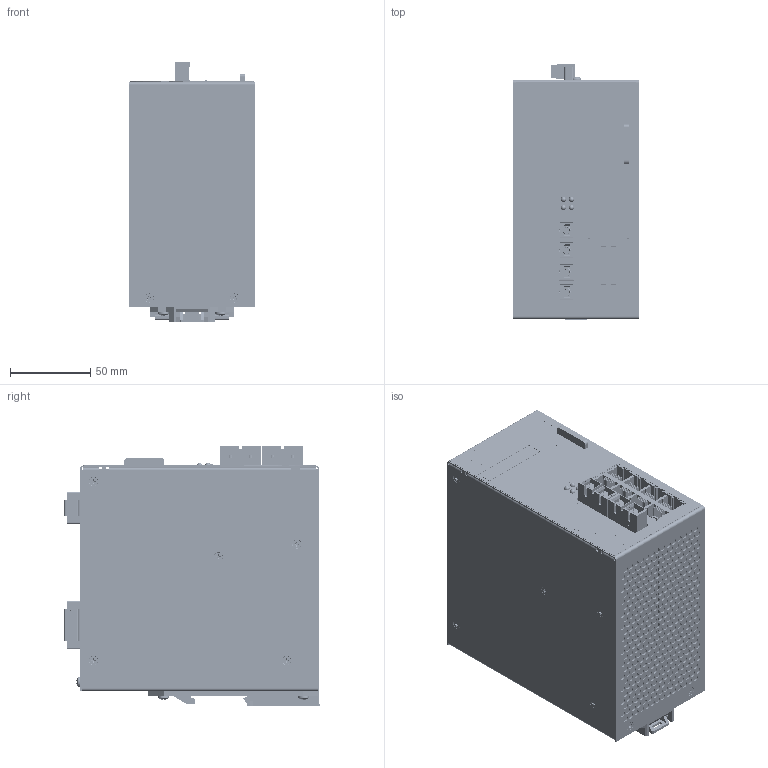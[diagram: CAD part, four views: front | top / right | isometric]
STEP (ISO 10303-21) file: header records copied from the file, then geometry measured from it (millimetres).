
FILE_DESCRIPTION (( 'STEP AP214' ), '1' );
FILE_NAME ('NT24K-10 GX-FX 2.STEP', '2023-03-01T15:05:07', ( '' ), ( '' ), 'SwSTEP 2.0', 'SolidWorks 2022', '' );
FILE_SCHEMA (( 'AUTOMOTIVE_DESIGN' ));
Length unit declared in the file: inch
Products named in the file (18): Left cover sheet metal; ethernet 2x4; 670688000; Right cover sheet metal; Overlay; NPTP0042; NHM06320_91249A144; Part1; LED; NHM04404_96640A334; NT24K-10 GX-FX 2; Front cover sheet metal; NPTH0022; 10 GX2 DB_Fiber_SC; NHBDINR1; mstb_2.5-4-5.08.stp; pxc_1778001_08_MSTB-2-5-4-STF-5-08_3D.stp; Part2
Assembly tree (32 placements, depth 4):
  NT24K-10 GX-FX 2
    Right cover sheet metal
    Left cover sheet metal
    Front cover sheet metal
    NHM04404_96640A334  x9
    NHBDINR1
    NHM06320_91249A144  x5
    670688000
    Part1
    Part2
    Overlay
    ethernet 2x4
    NPTH0022
    NPTP0042
      pxc_1778001_08_MSTB-2-5-4-STF-5-08_3D.stp
        mstb_2.5-4-5.08.stp
    10 GX2 DB_Fiber_SC
    LED  x4
Bounding box: 78.67 x 160.18 x 162.96 mm (x, y, z)
Volume: 1619004.9 mm3; surface area: 370936 mm2
Topology: 32 solids, 99 shells, 9010 faces, 25295 edges, 16633 vertices
Faces by surface type: plane 5462, cylinder 2741, bspline 523, cone 222, torus 44, sphere 18
Entity records: 362925 total; most frequent: CARTESIAN_POINT 107499, ORIENTED_EDGE 45380, DIRECTION 33169, EDGE_CURVE 22759, VERTEX_POINT 14976, AXIS2_PLACEMENT_3D 11609, LINE 9951, VECTOR 9951
